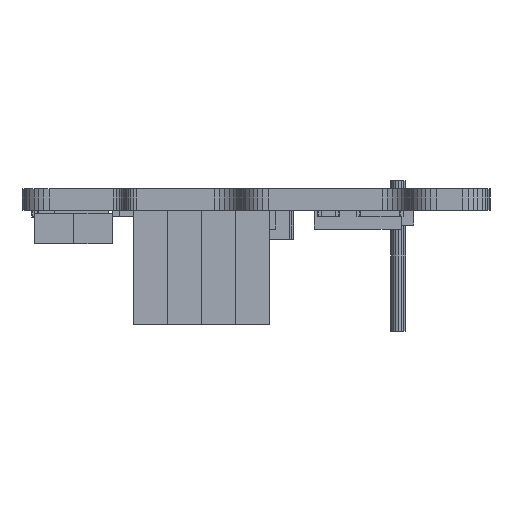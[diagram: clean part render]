
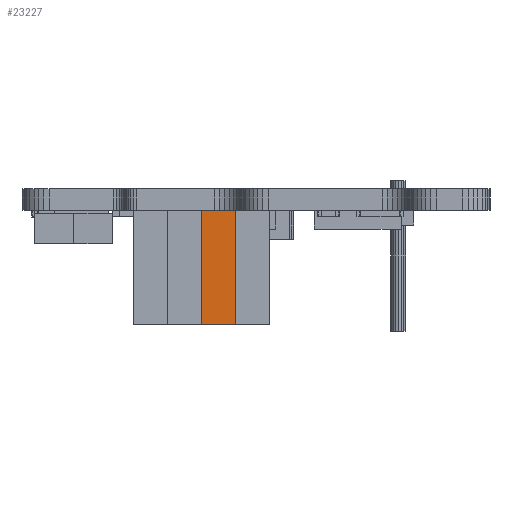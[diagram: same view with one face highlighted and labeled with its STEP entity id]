
A CAD part, front view. The second image highlights one B-rep face of the part: STEP entity #23227.
In plain terms, the highlighted planar face has unit normal (0, -1, 0).
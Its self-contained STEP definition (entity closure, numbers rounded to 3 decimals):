
#22404 = EDGE_CURVE('',#22405,#22407,#22409,.T.);
#22405 = VERTEX_POINT('',#22406);
#22406 = CARTESIAN_POINT('',(1.27,-1.27,0.));
#22407 = VERTEX_POINT('',#22408);
#22408 = CARTESIAN_POINT('',(1.27,-1.27,8.5));
#22409 = SURFACE_CURVE('',#22410,(#22414,#22426),.PCURVE_S1.);
#22410 = LINE('',#22411,#22412);
#22411 = CARTESIAN_POINT('',(1.27,-1.27,0.));
#22412 = VECTOR('',#22413,1.);
#22413 = DIRECTION('',(0.,0.,1.));
#22414 = PCURVE('',#22415,#22420);
#22415 = PLANE('',#22416);
#22416 = AXIS2_PLACEMENT_3D('',#22417,#22418,#22419);
#22417 = CARTESIAN_POINT('',(1.27,-1.27,0.));
#22418 = DIRECTION('',(-1.,0.,0.));
#22419 = DIRECTION('',(0.,1.,0.));
#22420 = DEFINITIONAL_REPRESENTATION('',(#22421),#22425);
#22421 = LINE('',#22422,#22423);
#22422 = CARTESIAN_POINT('',(0.,0.));
#22423 = VECTOR('',#22424,1.);
#22424 = DIRECTION('',(0.,-1.));
#22425 = ( GEOMETRIC_REPRESENTATION_CONTEXT(2) 
PARAMETRIC_REPRESENTATION_CONTEXT() REPRESENTATION_CONTEXT('2D SPACE',''
  ) );
#22426 = PCURVE('',#22427,#22432);
#22427 = PLANE('',#22428);
#22428 = AXIS2_PLACEMENT_3D('',#22429,#22430,#22431);
#22429 = CARTESIAN_POINT('',(-1.27,-1.27,0.));
#22430 = DIRECTION('',(0.,1.,0.));
#22431 = DIRECTION('',(1.,0.,0.));
#22432 = DEFINITIONAL_REPRESENTATION('',(#22433),#22437);
#22433 = LINE('',#22434,#22435);
#22434 = CARTESIAN_POINT('',(2.54,0.));
#22435 = VECTOR('',#22436,1.);
#22436 = DIRECTION('',(0.,-1.));
#22437 = ( GEOMETRIC_REPRESENTATION_CONTEXT(2) 
PARAMETRIC_REPRESENTATION_CONTEXT() REPRESENTATION_CONTEXT('2D SPACE',''
  ) );
#22455 = PLANE('',#22456);
#22456 = AXIS2_PLACEMENT_3D('',#22457,#22458,#22459);
#22457 = CARTESIAN_POINT('',(1.27,-1.27,8.5));
#22458 = DIRECTION('',(0.,0.,-1.));
#22459 = DIRECTION('',(-1.,0.,0.));
#22509 = PLANE('',#22510);
#22510 = AXIS2_PLACEMENT_3D('',#22511,#22512,#22513);
#22511 = CARTESIAN_POINT('',(1.27,-1.27,0.));
#22512 = DIRECTION('',(0.,0.,-1.));
#22513 = DIRECTION('',(-1.,0.,0.));
#23124 = PLANE('',#23125);
#23125 = AXIS2_PLACEMENT_3D('',#23126,#23127,#23128);
#23126 = CARTESIAN_POINT('',(-1.27,1.27,0.));
#23127 = DIRECTION('',(1.,0.,0.));
#23128 = DIRECTION('',(0.,-1.,0.));
#23162 = VERTEX_POINT('',#23163);
#23163 = CARTESIAN_POINT('',(-1.27,-1.27,8.5));
#23184 = EDGE_CURVE('',#23185,#23162,#23187,.T.);
#23185 = VERTEX_POINT('',#23186);
#23186 = CARTESIAN_POINT('',(-1.27,-1.27,0.));
#23187 = SURFACE_CURVE('',#23188,(#23192,#23199),.PCURVE_S1.);
#23188 = LINE('',#23189,#23190);
#23189 = CARTESIAN_POINT('',(-1.27,-1.27,0.));
#23190 = VECTOR('',#23191,1.);
#23191 = DIRECTION('',(0.,0.,1.));
#23192 = PCURVE('',#23124,#23193);
#23193 = DEFINITIONAL_REPRESENTATION('',(#23194),#23198);
#23194 = LINE('',#23195,#23196);
#23195 = CARTESIAN_POINT('',(2.54,0.));
#23196 = VECTOR('',#23197,1.);
#23197 = DIRECTION('',(0.,-1.));
#23198 = ( GEOMETRIC_REPRESENTATION_CONTEXT(2) 
PARAMETRIC_REPRESENTATION_CONTEXT() REPRESENTATION_CONTEXT('2D SPACE',''
  ) );
#23199 = PCURVE('',#22427,#23200);
#23200 = DEFINITIONAL_REPRESENTATION('',(#23201),#23205);
#23201 = LINE('',#23202,#23203);
#23202 = CARTESIAN_POINT('',(0.,0.));
#23203 = VECTOR('',#23204,1.);
#23204 = DIRECTION('',(0.,-1.));
#23205 = ( GEOMETRIC_REPRESENTATION_CONTEXT(2) 
PARAMETRIC_REPRESENTATION_CONTEXT() REPRESENTATION_CONTEXT('2D SPACE',''
  ) );
#23227 = ADVANCED_FACE('',(#23228),#22427,.F.);
#23228 = FACE_BOUND('',#23229,.F.);
#23229 = EDGE_LOOP('',(#23230,#23231,#23252,#23253));
#23230 = ORIENTED_EDGE('',*,*,#23184,.T.);
#23231 = ORIENTED_EDGE('',*,*,#23232,.T.);
#23232 = EDGE_CURVE('',#23162,#22407,#23233,.T.);
#23233 = SURFACE_CURVE('',#23234,(#23238,#23245),.PCURVE_S1.);
#23234 = LINE('',#23235,#23236);
#23235 = CARTESIAN_POINT('',(-1.27,-1.27,8.5));
#23236 = VECTOR('',#23237,1.);
#23237 = DIRECTION('',(1.,0.,0.));
#23238 = PCURVE('',#22427,#23239);
#23239 = DEFINITIONAL_REPRESENTATION('',(#23240),#23244);
#23240 = LINE('',#23241,#23242);
#23241 = CARTESIAN_POINT('',(0.,-8.5));
#23242 = VECTOR('',#23243,1.);
#23243 = DIRECTION('',(1.,0.));
#23244 = ( GEOMETRIC_REPRESENTATION_CONTEXT(2) 
PARAMETRIC_REPRESENTATION_CONTEXT() REPRESENTATION_CONTEXT('2D SPACE',''
  ) );
#23245 = PCURVE('',#22455,#23246);
#23246 = DEFINITIONAL_REPRESENTATION('',(#23247),#23251);
#23247 = LINE('',#23248,#23249);
#23248 = CARTESIAN_POINT('',(2.54,0.));
#23249 = VECTOR('',#23250,1.);
#23250 = DIRECTION('',(-1.,0.));
#23251 = ( GEOMETRIC_REPRESENTATION_CONTEXT(2) 
PARAMETRIC_REPRESENTATION_CONTEXT() REPRESENTATION_CONTEXT('2D SPACE',''
  ) );
#23252 = ORIENTED_EDGE('',*,*,#22404,.F.);
#23253 = ORIENTED_EDGE('',*,*,#23254,.F.);
#23254 = EDGE_CURVE('',#23185,#22405,#23255,.T.);
#23255 = SURFACE_CURVE('',#23256,(#23260,#23267),.PCURVE_S1.);
#23256 = LINE('',#23257,#23258);
#23257 = CARTESIAN_POINT('',(-1.27,-1.27,0.));
#23258 = VECTOR('',#23259,1.);
#23259 = DIRECTION('',(1.,0.,0.));
#23260 = PCURVE('',#22427,#23261);
#23261 = DEFINITIONAL_REPRESENTATION('',(#23262),#23266);
#23262 = LINE('',#23263,#23264);
#23263 = CARTESIAN_POINT('',(0.,0.));
#23264 = VECTOR('',#23265,1.);
#23265 = DIRECTION('',(1.,0.));
#23266 = ( GEOMETRIC_REPRESENTATION_CONTEXT(2) 
PARAMETRIC_REPRESENTATION_CONTEXT() REPRESENTATION_CONTEXT('2D SPACE',''
  ) );
#23267 = PCURVE('',#22509,#23268);
#23268 = DEFINITIONAL_REPRESENTATION('',(#23269),#23273);
#23269 = LINE('',#23270,#23271);
#23270 = CARTESIAN_POINT('',(2.54,0.));
#23271 = VECTOR('',#23272,1.);
#23272 = DIRECTION('',(-1.,0.));
#23273 = ( GEOMETRIC_REPRESENTATION_CONTEXT(2) 
PARAMETRIC_REPRESENTATION_CONTEXT() REPRESENTATION_CONTEXT('2D SPACE',''
  ) );
